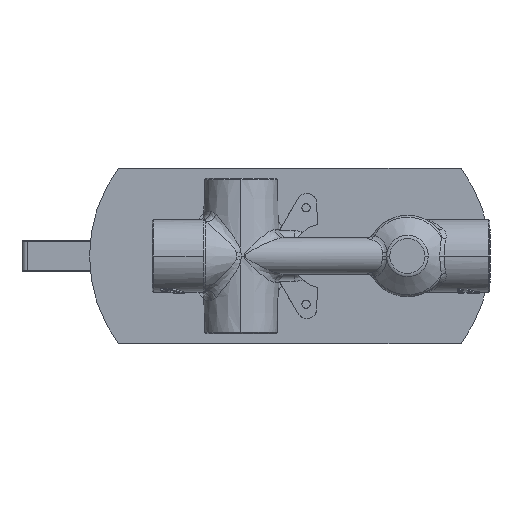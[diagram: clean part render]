
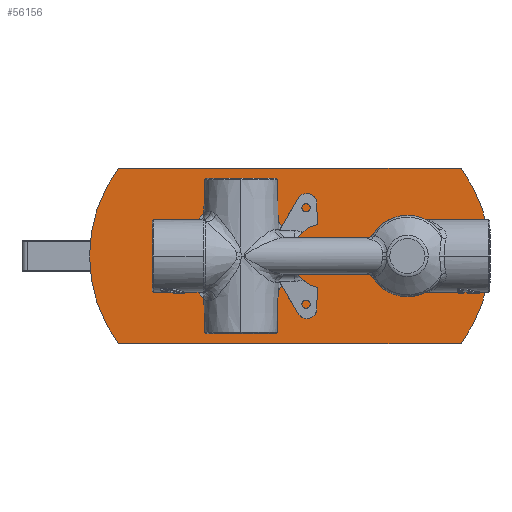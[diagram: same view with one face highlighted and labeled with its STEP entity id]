
A CAD part, front view. The second image highlights one B-rep face of the part: STEP entity #56156.
In plain terms, the highlighted planar face has unit normal (0, -1, 0) as drawn and (0, 1, 0) by its records, which use the part's own axes.
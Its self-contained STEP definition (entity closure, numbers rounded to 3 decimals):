
#55878=CARTESIAN_POINT('',(848.934,-343.965,
58.918));
#55879=DIRECTION('',(0.,-1.,0.));
#55880=DIRECTION('',(-0.594,0.,-0.804));
#55881=AXIS2_PLACEMENT_3D('',#55878,#55879,#55880);
#55883=DIRECTION('',(0.,0.,1.));
#55884=VECTOR('',#55883,136.956);
#55885=CARTESIAN_POINT('',(883.934,-343.965,
11.522));
#55886=LINE('',#55885,#55884);
#55887=CARTESIAN_POINT('',(848.934,-343.965,
101.082));
#55888=DIRECTION('',(0.,-1.,0.));
#55889=DIRECTION('',(0.594,0.,0.804));
#55890=AXIS2_PLACEMENT_3D('',#55887,#55888,#55889);
#55892=DIRECTION('',(0.,0.,-1.));
#55893=VECTOR('',#55892,136.956);
#55894=CARTESIAN_POINT('',(813.934,-343.965,
148.478));
#55895=LINE('',#55894,#55893);
#55896=CARTESIAN_POINT('',(848.934,-343.965,
59.001));
#55897=DIRECTION('',(0.,1.,0.));
#55898=DIRECTION('',(-1.,0.,0.));
#55899=AXIS2_PLACEMENT_3D('',#55896,#55897,#55898);
#55901=CARTESIAN_POINT('',(848.934,-343.965,
59.001));
#55902=DIRECTION('',(0.,1.,0.));
#55903=DIRECTION('',(1.,0.,0.));
#55904=AXIS2_PLACEMENT_3D('',#55901,#55902,#55903);
#55906=CARTESIAN_POINT('',(848.934,-343.965,
127.001));
#55907=DIRECTION('',(0.,1.,0.));
#55908=DIRECTION('',(-1.,0.,0.));
#55909=AXIS2_PLACEMENT_3D('',#55906,#55907,#55908);
#55911=CARTESIAN_POINT('',(848.934,-343.965,
127.001));
#55912=DIRECTION('',(0.,1.,0.));
#55913=DIRECTION('',(1.,0.,0.));
#55914=AXIS2_PLACEMENT_3D('',#55911,#55912,#55913);
#56058=CARTESIAN_POINT('',(813.934,-343.965,
11.522));
#56059=CARTESIAN_POINT('',(883.934,-343.965,
11.522));
#56060=VERTEX_POINT('',#56058);
#56061=VERTEX_POINT('',#56059);
#56066=CARTESIAN_POINT('',(883.934,-343.965,
148.478));
#56067=VERTEX_POINT('',#56066);
#56068=CARTESIAN_POINT('',(813.934,-343.965,
148.478));
#56069=VERTEX_POINT('',#56068);
#56070=CARTESIAN_POINT('',(832.034,-343.965,
59.001));
#56071=CARTESIAN_POINT('',(865.834,-343.965,
59.001));
#56072=VERTEX_POINT('',#56070);
#56073=VERTEX_POINT('',#56071);
#56074=CARTESIAN_POINT('',(839.034,-343.965,
127.001));
#56075=CARTESIAN_POINT('',(858.834,-343.965,
127.001));
#56076=VERTEX_POINT('',#56074);
#56077=VERTEX_POINT('',#56075);
#56130=CARTESIAN_POINT('',(0.,-343.965,0.));
#56131=DIRECTION('',(0.,1.,0.));
#56132=DIRECTION('',(-1.,0.,0.));
#56133=AXIS2_PLACEMENT_3D('',#56130,#56131,#56132);
#56134=PLANE('',#56133);
#56135=ORIENTED_EDGE('',*,*,#56119,.T.);
#56137=ORIENTED_EDGE('',*,*,#56136,.T.);
#56139=ORIENTED_EDGE('',*,*,#56138,.T.);
#56141=ORIENTED_EDGE('',*,*,#56140,.T.);
#56142=EDGE_LOOP('',(#56135,#56137,#56139,#56141));
#56143=FACE_OUTER_BOUND('',#56142,.F.);
#56145=ORIENTED_EDGE('',*,*,#56144,.T.);
#56147=ORIENTED_EDGE('',*,*,#56146,.T.);
#56148=EDGE_LOOP('',(#56145,#56147));
#56149=FACE_BOUND('',#56148,.F.);
#56151=ORIENTED_EDGE('',*,*,#56150,.T.);
#56153=ORIENTED_EDGE('',*,*,#56152,.T.);
#56154=EDGE_LOOP('',(#56151,#56153));
#56155=FACE_BOUND('',#56154,.F.);
#55882=CIRCLE('',#55881,58.918);
#55891=CIRCLE('',#55890,58.918);
#55900=CIRCLE('',#55899,16.9);
#55905=CIRCLE('',#55904,16.9);
#55910=CIRCLE('',#55909,9.9);
#55915=CIRCLE('',#55914,9.9);
#56119=EDGE_CURVE('',#56060,#56061,#55882,.T.);
#56136=EDGE_CURVE('',#56061,#56067,#55886,.T.);
#56138=EDGE_CURVE('',#56067,#56069,#55891,.T.);
#56140=EDGE_CURVE('',#56069,#56060,#55895,.T.);
#56144=EDGE_CURVE('',#56072,#56073,#55900,.T.);
#56146=EDGE_CURVE('',#56073,#56072,#55905,.T.);
#56150=EDGE_CURVE('',#56076,#56077,#55910,.T.);
#56152=EDGE_CURVE('',#56077,#56076,#55915,.T.);
#56156=ADVANCED_FACE('',(#56143,#56149,#56155),#56134,.T.);
